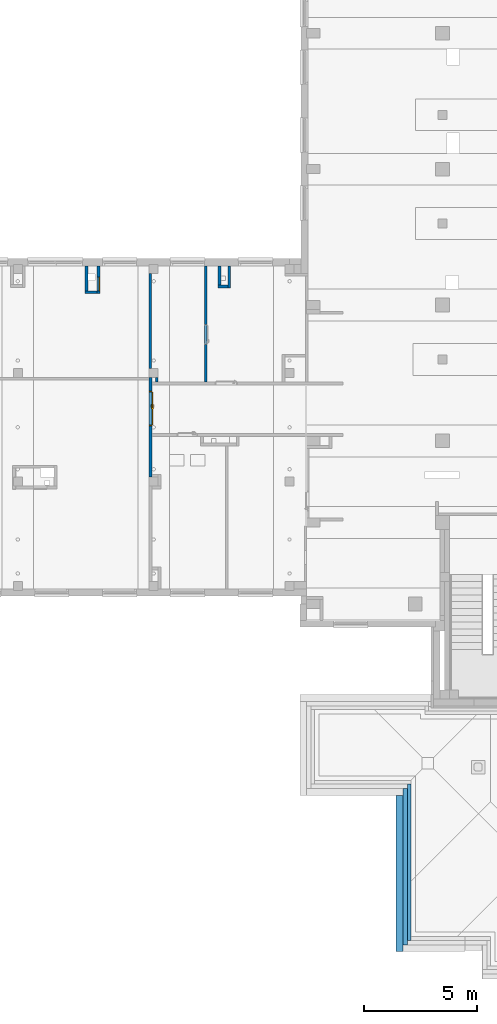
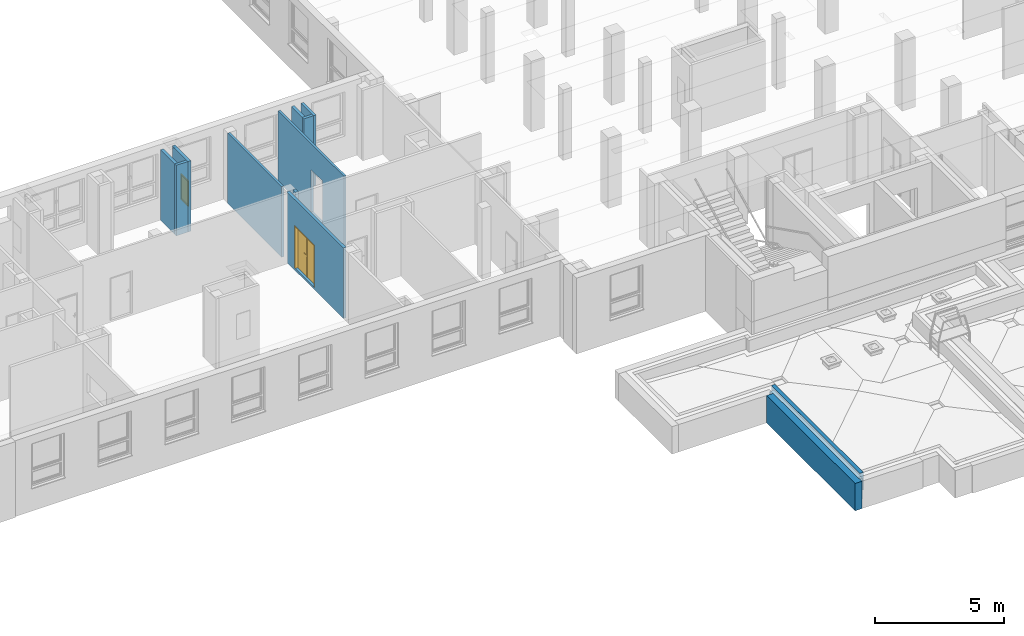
# One storey, part 18 of 50: 11 walls, 1 door, 1 window, 3 openings.
"""IFC4 building model written with IfcOpenShell, lengths in metres."""

from ifc_helpers import new_model, entity, si_unit, converted_unit, derived_unit, frame, frame_2d, origin, origin_with_axes, place, context, subcontext, project, spatial, polyline, rectangle, outline, extrude, clip, bounded_halfspace, closed_shell, open_shell, faceted_brep, surface_model, source, transform, mapped, material, layer, layer_set, layer_usage, type_object, element, fill, save


model = new_model("IFC4")

# Units and contexts
model_context = context("Model", 3, precision=1e-05, world=origin())
body_context = subcontext(model_context, "Body", "Model", "MODEL_VIEW")
ifc_project = project(units=[si_unit("LENGTHUNIT", "METRE"), si_unit("AREAUNIT", "SQUARE_METRE"), si_unit("VOLUMEUNIT", "CUBIC_METRE"), si_unit("MASSUNIT", "GRAM", prefix="KILO"), converted_unit("PLANEANGLEUNIT", "DEGREE", entity("IfcPlaneAngleMeasure", 0.0174532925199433), si_unit("PLANEANGLEUNIT", "RADIAN"), dimensions=[0, 0, 0, 0, 0, 0, 0]), derived_unit("THERMALTRANSMITTANCEUNIT", [(si_unit("POWERUNIT", "WATT"), 1), (si_unit("THERMODYNAMICTEMPERATUREUNIT", "KELVIN"), -1), (si_unit("LENGTHUNIT", "METRE"), -2)]), derived_unit("VOLUMETRICFLOWRATEUNIT", [(si_unit("LENGTHUNIT", "METRE"), 3), (converted_unit("TIMEUNIT", "hour", entity("IfcTimeMeasure", 3600.0), si_unit("TIMEUNIT", "SECOND"), dimensions=[0, 0, 1, 0, 0, 0, 0]), -1), (si_unit("LENGTHUNIT", "METRE"), -1)])], contexts=[model_context])

# Site, building, storey
site_placement = place(None, origin())
site = spatial("IfcSite", under=ifc_project, at=site_placement, Name="3. ASŘ", CompositionType="ELEMENT")
building_placement = place(site_placement, origin())
building = spatial("IfcBuilding", under=site, at=building_placement, Name="Pavilon C", CompositionType="ELEMENT")
storey_placement = place(building_placement, frame((0.0, 0.0, 3.6)))
storey = spatial("IfcBuildingStorey", under=building, at=storey_placement, Name="Půdorys 2.NP", CompositionType="ELEMENT", Elevation=3.6)

# Wall, opening, window
ifc_material_1 = material(Name="ZDIVO Z CDm")
ifc_layer_1 = layer(ifc_material_1, 0.125)
ifc_layer_set_1 = layer_set([ifc_layer_1])
ifc_layer_usage_1 = layer_usage(ifc_layer_set_1, "AXIS2", "POSITIVE", 0.0)
wall_1_placement = place(storey_placement, frame((15.5, 14.93, -0.1), z_axis=(0.0, 0.0, 1.0), x_axis=(0.0, -1.0, 0.0)))
wall_1 = element("IfcWall", 1, at=wall_1_placement, inside=storey, material=ifc_layer_usage_1, Name="ZDIVO Z CDm", context=body_context, shape_type="SweptSolid", body=[
    extrude(rectangle(XDim=1.225, YDim=0.125, at=frame_2d((0.612500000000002, 0.0625), x_axis=(1.0, 0.0))), origin_with_axes(), (0.0, 0.0, 1.0), 3.35),
])
opening_1_placement = place(wall_1_placement, frame((1.10000000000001, 0.125, 1.1), z_axis=(0.0, -1.0, 0.0), x_axis=(0.0, 0.0, 1.0)))
opening_1 = element("IfcOpeningElement", 2, at=opening_1_placement, cuts=wall_1, Name="Okenní otvor", ObjectType="Opening", context=body_context, shape_type="SweptSolid", body=[
    extrude(outline(polyline([(0.0, 0.6), (1.2, 0.6), (1.2, 0.0), (0.0, 0.0), (0.0, 0.6)])), origin_with_axes(), (0.0, 0.0, 1.0), 0.125),
])
shared_shape_1 = source(origin_with_axes(), body_context, "Body", "Brep", [
    faceted_brep([(0.0, 0.0600000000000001, 1.2), (0.0, 0.06, 4.91096680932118e-19), (0.02, 0.06, 4.91096680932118e-19), (0.02, 0.0600000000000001, 1.2), (0.0, 0.01, 6.61433067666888e-18), (0.0, 0.0100000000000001, 1.2), (0.02, 0.0100000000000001, 1.2), (0.02, 0.01, 6.61433067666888e-18)], [[[0, 1, 2, 3]], [[4, 5, 6, 7]], [[1, 0, 5, 4]], [[2, 1, 4, 7]], [[3, 2, 7, 6]], [[0, 3, 6, 5]]], orient=[[False], [False], [False], [False], [False], [False]]),
    faceted_brep([(0.58, 0.0600000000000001, 1.2), (0.58, 0.06, 4.91096680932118e-19), (0.6, 0.06, 4.91096680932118e-19), (0.6, 0.0600000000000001, 1.2), (0.58, 0.01, 6.61433067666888e-18), (0.58, 0.0100000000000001, 1.2), (0.6, 0.0100000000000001, 1.2), (0.6, 0.01, 6.61433067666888e-18)], [[[0, 1, 2, 3]], [[4, 5, 6, 7]], [[1, 0, 5, 4]], [[2, 1, 4, 7]], [[3, 2, 7, 6]], [[0, 3, 6, 5]]], orient=[[False], [False], [False], [False], [False], [False]]),
    faceted_brep([(0.02, 0.06, 0.02), (0.02, 0.06, 4.91096680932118e-19), (0.58, 0.06, 4.91096680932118e-19), (0.58, 0.06, 0.02), (0.02, 0.01, 6.61433067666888e-18), (0.02, 0.01, 0.02), (0.58, 0.01, 0.02), (0.58, 0.01, 6.61433067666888e-18)], [[[0, 1, 2, 3]], [[4, 5, 6, 7]], [[1, 0, 5, 4]], [[2, 1, 4, 7]], [[3, 2, 7, 6]], [[0, 3, 6, 5]]], orient=[[False], [False], [False], [False], [False], [False]]),
    faceted_brep([(0.02, 0.0600000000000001, 1.2), (0.02, 0.0600000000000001, 1.18), (0.58, 0.0600000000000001, 1.18), (0.58, 0.0600000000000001, 1.2), (0.02, 0.0100000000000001, 1.18), (0.02, 0.0100000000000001, 1.2), (0.58, 0.0100000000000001, 1.2), (0.58, 0.0100000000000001, 1.18)], [[[0, 1, 2, 3]], [[4, 5, 6, 7]], [[1, 0, 5, 4]], [[2, 1, 4, 7]], [[3, 2, 7, 6]], [[0, 3, 6, 5]]], orient=[[False], [False], [False], [False], [False], [False]]),
    faceted_brep([(0.02, 0.0100000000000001, 1.18), (0.02, 0.01, 0.02), (0.58, 0.01, 0.02), (0.58, 0.0100000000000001, 1.18), (0.02, 0.0, 0.02), (0.02, 1.4210854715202e-16, 1.18), (0.58, 1.4210854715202e-16, 1.18), (0.58, 0.0, 0.02)], [[[0, 1, 2, 3]], [[4, 5, 6, 7]], [[1, 0, 5, 4]], [[2, 1, 4, 7]], [[3, 2, 7, 6]], [[0, 3, 6, 5]]], orient=[[False], [False], [False], [False], [False], [False]]),
])
window_placement = place(opening_1_placement, frame((0.0, 0.599999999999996, -0.00999999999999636), z_axis=(1.0, 0.0, 0.0), x_axis=(0.0, -1.0, 1.22464679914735e-16)))
window = element("IfcWindow", 3, at=window_placement, inside=storey, Name="O01", OverallHeight=1.2, OverallWidth=0.6, PartitioningType="USERDEFINED", PredefinedType="WINDOW", context=body_context, shape_type="MappedRepresentation", body=[
    mapped(shared_shape_1, transform((0.0, 0.0, 0.0), x_axis=(1.0, 0.0, 0.0), y_axis=(0.0, -1.0, 0.0), z_axis=(0.0, 0.0, 1.0), scale=1.0)),
])
fill(opening_1, window)

# Walls
ifc_material_2 = material(Name="ZDIVO Z CDm")
ifc_layer_2 = layer(ifc_material_2, 0.125)
ifc_layer_set_2 = layer_set([ifc_layer_2])
ifc_layer_usage_2 = layer_usage(ifc_layer_set_2, "AXIS2", "POSITIVE", 0.0)
wall_2_placement = place(storey_placement, frame((15.5, 13.83, -0.1), z_axis=(0.0, 0.0, 1.0), x_axis=(-1.0, 0.0, 0.0)))
element("IfcWall", 4, at=wall_2_placement, inside=storey, material=ifc_layer_usage_2, Name="ZDIVO Z CDm", context=body_context, shape_type="SweptSolid", body=[
    extrude(rectangle(XDim=0.525, YDim=0.125, at=frame_2d((0.2625, 0.0625), x_axis=(1.0, 0.0))), origin_with_axes(), (0.0, 0.0, 1.0), 3.35),
])
ifc_material_3 = material(Name="ZDIVO Z CDm")
ifc_layer_3 = layer(ifc_material_3, 0.125)
ifc_layer_set_3 = layer_set([ifc_layer_3])
ifc_layer_usage_3 = layer_usage(ifc_layer_set_3, "AXIS2", "POSITIVE", 0.0)
wall_3_placement = place(storey_placement, frame((15.1, 13.83, -0.1), z_axis=(0.0, 0.0, 1.0), x_axis=(0.0, 1.0, 0.0)))
element("IfcWall", 5, at=wall_3_placement, inside=storey, material=ifc_layer_usage_3, Name="ZDIVO Z CDm", context=body_context, shape_type="SweptSolid", body=[
    extrude(rectangle(XDim=1.10000000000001, YDim=0.125, at=frame_2d((0.550000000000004, 0.0625), x_axis=(1.0, 0.0))), origin_with_axes(), (0.0, 0.0, 1.0), 3.35),
])
ifc_material_4 = material(Name="ZDIVO Z CDm")
ifc_layer_4 = layer(ifc_material_4, 0.125)
ifc_layer_set_4 = layer_set([ifc_layer_4])
ifc_layer_usage_4 = layer_usage(ifc_layer_set_4, "AXIS2", "POSITIVE", 0.0)
wall_4_placement = place(storey_placement, frame((21.275, 14.93, -0.1), z_axis=(0.0, 0.0, 1.0), x_axis=(0.0, -1.0, 0.0)))
element("IfcWall", 6, at=wall_4_placement, inside=storey, material=ifc_layer_usage_4, Name="ZDIVO Z CDm", context=body_context, shape_type="SweptSolid", body=[
    extrude(rectangle(XDim=0.975, YDim=0.125, at=frame_2d((0.4875, 0.0625), x_axis=(1.0, 0.0))), origin_with_axes(), (0.0, 0.0, 1.0), 3.35),
])
ifc_material_5 = material(Name="ZDIVO Z CDm")
ifc_layer_5 = layer(ifc_material_5, 0.125)
ifc_layer_set_5 = layer_set([ifc_layer_5])
ifc_layer_usage_5 = layer_usage(ifc_layer_set_5, "AXIS2", "POSITIVE", 0.0)
wall_5_placement = place(storey_placement, frame((21.275, 14.08, -0.1), z_axis=(0.0, 0.0, 1.0), x_axis=(-1.0, 0.0, 0.0)))
element("IfcWall", 7, at=wall_5_placement, inside=storey, material=ifc_layer_usage_5, Name="ZDIVO Z CDm", context=body_context, shape_type="SweptSolid", body=[
    extrude(rectangle(XDim=0.425, YDim=0.125, at=frame_2d((0.2125, 0.0625), x_axis=(1.0, 0.0))), origin_with_axes(), (0.0, 0.0, 1.0), 3.35),
])
ifc_material_6 = material(Name="ZDIVO Z CDm")
ifc_layer_6 = layer(ifc_material_6, 0.125)
ifc_layer_set_6 = layer_set([ifc_layer_6])
ifc_layer_usage_6 = layer_usage(ifc_layer_set_6, "AXIS2", "POSITIVE", 0.0)
wall_6_placement = place(storey_placement, frame((20.975, 14.08, -0.1), z_axis=(0.0, 0.0, 1.0), x_axis=(0.0, 1.0, 0.0)))
element("IfcWall", 8, at=wall_6_placement, inside=storey, material=ifc_layer_usage_6, Name="ZDIVO Z CDm", context=body_context, shape_type="SweptSolid", body=[
    extrude(rectangle(XDim=0.850000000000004, YDim=0.125, at=frame_2d((0.425000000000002, 0.0625), x_axis=(1.0, 0.0))), origin_with_axes(), (0.0, 0.0, 1.0), 3.35),
])
ifc_material_7 = material(Name="PÓROBETONOVÉ ZDIVO")
ifc_layer_7 = layer(ifc_material_7, 0.1)
ifc_layer_set_7 = layer_set([ifc_layer_7])
ifc_layer_usage_7 = layer_usage(ifc_layer_set_7, "AXIS2", "POSITIVE", 0.0)
wall_7_placement = place(storey_placement, frame((17.8, 14.6, -0.1), z_axis=(0.0, 0.0, 1.0), x_axis=(0.0, -1.0, 0.0)))
element("IfcWall", 9, at=wall_7_placement, inside=storey, material=ifc_layer_usage_7, Name="PÓROBETONOVÉ ZDIVO", context=body_context, shape_type="SweptSolid", body=[
    extrude(rectangle(XDim=4.2, YDim=0.1, at=frame_2d((2.1, 0.05), x_axis=(1.0, 0.0))), origin_with_axes(), (0.0, 0.0, 1.0), 3.35),
])

# Wall, opening, door
ifc_material_8 = material(Name="ZDIVO Z CDm")
ifc_layer_8 = layer(ifc_material_8, 0.125)
ifc_layer_set_8 = layer_set([ifc_layer_8])
ifc_layer_usage_8 = layer_usage(ifc_layer_set_8, "AXIS2", "POSITIVE", 0.0)
wall_8_placement = place(storey_placement, frame((17.8, 10.0, -0.1), z_axis=(0.0, 0.0, 1.0), x_axis=(0.0, -1.0, 0.0)))
wall_8 = element("IfcWall", 10, at=wall_8_placement, inside=storey, material=ifc_layer_usage_8, Name="ZDIVO Z CDm", context=body_context, shape_type="SweptSolid", body=[
    extrude(rectangle(XDim=4.4, YDim=0.125, at=frame_2d((2.2, 0.0625), x_axis=(1.0, 0.0))), origin_with_axes(), (0.0, 0.0, 1.0), 3.35),
])
opening_2_placement = place(wall_8_placement, frame((2.15, 0.125, 0.1), z_axis=(0.0, -1.0, 0.0), x_axis=(0.0, 0.0, 1.0)))
opening_2 = element("IfcOpeningElement", 11, at=opening_2_placement, cuts=wall_8, Name="Dveřní otvor", ObjectType="Opening", context=body_context, shape_type="SweptSolid", body=[
    extrude(outline(polyline([(0.0, 1.55), (2.02, 1.55), (2.02, 0.0), (0.0, 0.0), (0.0, 1.55)])), origin_with_axes(), (0.0, 0.0, 1.0), 0.125),
])
door_type = type_object("IfcDoorType", Name="D501", OperationType="NOTDEFINED", ParameterTakesPrecedence=False, PredefinedType="DOOR")
shared_shape_2 = source(origin_with_axes(), body_context, "Body", "SurfaceModel", [
    surface_model("IfcShellBasedSurfaceModel", [(0.0, 0.125, 2.02), (0.0, 0.125, -7.65404249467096e-18), (0.05, 0.125, -7.65404249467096e-18), (0.05, 0.125, 2.02), (0.0, 0.0, 7.65404249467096e-18), (0.0, 2.41584530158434e-16, 2.02), (0.05, 2.41584530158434e-16, 2.02), (0.05, 0.0, 7.65404249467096e-18)], [closed_shell([[[0, 1, 2, 3]], [[4, 5, 6, 7]], [[1, 0, 5, 4]], [[2, 1, 4, 7]], [[3, 2, 7, 6]], [[0, 3, 6, 5]]], orient=[[False], [False], [False], [False], [False], [False]])]),
    surface_model("IfcShellBasedSurfaceModel", [(1.5, 0.125, 2.02), (1.5, 0.125, -7.65404249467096e-18), (1.55, 0.125, -7.65404249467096e-18), (1.55, 0.125, 2.02), (1.5, 0.0, 7.65404249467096e-18), (1.5, 2.41584530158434e-16, 2.02), (1.55, 2.41584530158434e-16, 2.02), (1.55, 0.0, 7.65404249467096e-18)], [closed_shell([[[0, 1, 2, 3]], [[4, 5, 6, 7]], [[1, 0, 5, 4]], [[2, 1, 4, 7]], [[3, 2, 7, 6]], [[0, 3, 6, 5]]], orient=[[False], [False], [False], [False], [False], [False]])]),
    surface_model("IfcShellBasedSurfaceModel", [(0.05, 0.125, 2.02), (0.05, 0.125, 1.97), (1.5, 0.125, 1.97), (1.5, 0.125, 2.02), (0.05, 2.41584530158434e-16, 1.97), (0.05, 2.41584530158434e-16, 2.02), (1.5, 2.41584530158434e-16, 2.02), (1.5, 2.41584530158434e-16, 1.97)], [closed_shell([[[0, 1, 2, 3]], [[4, 5, 6, 7]], [[1, 0, 5, 4]], [[2, 1, 4, 7]], [[3, 2, 7, 6]], [[0, 3, 6, 5]]], orient=[[False], [False], [False], [False], [False], [False]])]),
    surface_model("IfcShellBasedSurfaceModel", [(0.05, 0.165, 1.97), (0.05, 0.165, -1.25526296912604e-17), (0.7745, 0.165, -1.25526296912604e-17), (0.7745, 0.165, 1.97), (0.05, 0.125, -7.65404249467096e-18), (0.05, 0.125, 1.97), (0.7745, 0.125, 1.97), (0.7745, 0.125, -7.65404249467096e-18)], [closed_shell([[[0, 1, 2, 3]], [[4, 5, 6, 7]], [[1, 0, 5, 4]], [[2, 1, 4, 7]], [[3, 2, 7, 6]], [[0, 3, 6, 5]]], orient=[[False], [False], [False], [False], [False], [False]])]),
    surface_model("IfcShellBasedSurfaceModel", [(0.7545, 0.165, 1.97), (0.7945, 0.165, 1.97), (0.7945, 0.165, -1.25526296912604e-17), (0.7545, 0.165, -1.25526296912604e-17), (0.7545, 0.185, -1.50019232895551e-17), (0.7945, 0.185, -1.50019232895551e-17), (0.7945, 0.185, 1.97), (0.7545, 0.185, 1.97)], [closed_shell([[[0, 1, 2, 3]], [[4, 5, 6, 7]], [[3, 4, 7, 0]], [[2, 5, 4, 3]], [[1, 6, 5, 2]], [[0, 7, 6, 1]]], orient=[[False], [False], [False], [False], [False], [False]])]),
    surface_model("IfcShellBasedSurfaceModel", [(0.733315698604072, 0.125, 0.93625), (0.737, 0.125, 0.95), (0.733315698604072, 0.125, 0.96375), (0.72325, 0.125, 0.973815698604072), (0.7095, 0.125, 0.9775), (0.69575, 0.125, 0.973815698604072), (0.685684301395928, 0.125, 0.96375), (0.682, 0.125, 0.95), (0.685684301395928, 0.125, 0.93625), (0.69575, 0.125, 0.926184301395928), (0.7095, 0.125, 0.9225), (0.72325, 0.125, 0.926184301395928), (0.737, 0.1125, 0.95), (0.733315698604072, 0.1125, 0.93625), (0.72325, 0.1125, 0.926184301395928), (0.7095, 0.1125, 0.9225), (0.69575, 0.1125, 0.926184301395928), (0.685684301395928, 0.1125, 0.93625), (0.682, 0.1125, 0.95), (0.685684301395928, 0.1125, 0.96375), (0.69575, 0.1125, 0.973815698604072), (0.7095, 0.1125, 0.9775), (0.72325, 0.1125, 0.973815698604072), (0.733315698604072, 0.1125, 0.96375)], [closed_shell([[[0, 1, 2, 3, 4, 5, 6, 7, 8, 9, 10, 11]], [[12, 13, 14, 15, 16, 17, 18, 19, 20, 21, 22, 23]], [[1, 0, 13, 12]], [[2, 1, 12, 23]], [[3, 2, 23, 22]], [[4, 3, 22, 21]], [[5, 4, 21, 20]], [[6, 5, 20, 19]], [[7, 6, 19, 18]], [[8, 7, 18, 17]], [[9, 8, 17, 16]], [[10, 9, 16, 15]], [[11, 10, 15, 14]], [[0, 11, 14, 13]]], orient=[[False], [False], [False], [False], [False], [False], [False], [False], [False], [False], [False], [False], [False], [False]])]),
    surface_model("IfcShellBasedSurfaceModel", [(0.733315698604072, 0.125, 1.03625), (0.737, 0.125, 1.05), (0.733315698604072, 0.125, 1.06375), (0.72325, 0.125, 1.07381569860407), (0.7095, 0.125, 1.0775), (0.69575, 0.125, 1.07381569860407), (0.685684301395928, 0.125, 1.06375), (0.682, 0.125, 1.05), (0.685684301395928, 0.125, 1.03625), (0.69575, 0.125, 1.02618430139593), (0.7095, 0.125, 1.0225), (0.72325, 0.125, 1.02618430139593), (0.737, 0.1125, 1.05), (0.733315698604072, 0.1125, 1.03625), (0.72325, 0.1125, 1.02618430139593), (0.7095, 0.1125, 1.0225), (0.69575, 0.1125, 1.02618430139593), (0.685684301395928, 0.1125, 1.03625), (0.682, 0.1125, 1.05), (0.685684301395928, 0.1125, 1.06375), (0.69575, 0.1125, 1.07381569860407), (0.7095, 0.1125, 1.0775), (0.72325, 0.1125, 1.07381569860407), (0.733315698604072, 0.1125, 1.06375)], [closed_shell([[[0, 1, 2, 3, 4, 5, 6, 7, 8, 9, 10, 11]], [[12, 13, 14, 15, 16, 17, 18, 19, 20, 21, 22, 23]], [[1, 0, 13, 12]], [[2, 1, 12, 23]], [[3, 2, 23, 22]], [[4, 3, 22, 21]], [[5, 4, 21, 20]], [[6, 5, 20, 19]], [[7, 6, 19, 18]], [[8, 7, 18, 17]], [[9, 8, 17, 16]], [[10, 9, 16, 15]], [[11, 10, 15, 14]], [[0, 11, 14, 13]]], orient=[[False], [False], [False], [False], [False], [False], [False], [False], [False], [False], [False], [False], [False], [False]])]),
    surface_model("IfcShellBasedSurfaceModel", [(0.7095, 0.125, 1.06), (0.7045, 0.125, 1.05866025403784), (0.700839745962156, 0.125, 1.055), (0.6995, 0.125, 1.05), (0.700839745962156, 0.125, 1.045), (0.7045, 0.125, 1.04133974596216), (0.7095, 0.125, 1.04), (0.7145, 0.125, 1.04133974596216), (0.718160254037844, 0.125, 1.045), (0.7195, 0.125, 1.05), (0.718160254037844, 0.125, 1.055), (0.7145, 0.125, 1.05866025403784), (0.7145, 0.0800000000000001, 1.05866025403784), (0.7095, 0.0850000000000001, 1.06), (0.718160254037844, 0.0763397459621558, 1.055), (0.7195, 0.0750000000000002, 1.05), (0.718160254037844, 0.0763397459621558, 1.045), (0.7145, 0.0800000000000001, 1.04133974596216), (0.7095, 0.0850000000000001, 1.04), (0.7045, 0.0900000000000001, 1.04133974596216), (0.700839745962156, 0.0936602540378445, 1.045), (0.6995, 0.0950000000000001, 1.05), (0.700839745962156, 0.0936602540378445, 1.055), (0.7045, 0.0900000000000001, 1.05866025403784), (0.5945, 0.0800000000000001, 1.05866025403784), (0.5945, 0.0850000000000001, 1.06), (0.5945, 0.0763397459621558, 1.055), (0.5945, 0.0750000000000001, 1.05), (0.5945, 0.0763397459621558, 1.045), (0.5945, 0.0800000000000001, 1.04133974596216), (0.5945, 0.0850000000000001, 1.04), (0.5945, 0.0900000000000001, 1.04133974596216), (0.5945, 0.0936602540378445, 1.045), (0.5945, 0.0950000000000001, 1.05), (0.5945, 0.0936602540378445, 1.055), (0.5945, 0.0900000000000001, 1.05866025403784)], [open_shell([[[0, 1, 2, 3, 4, 5, 6, 7, 8, 9, 10, 11]], [[0, 11, 12, 13]], [[11, 10, 14, 12]], [[10, 9, 15, 14]], [[9, 8, 16, 15]], [[8, 7, 17, 16]], [[7, 6, 18, 17]], [[6, 5, 19, 18]], [[5, 4, 20, 19]], [[4, 3, 21, 20]], [[3, 2, 22, 21]], [[2, 1, 23, 22]], [[1, 0, 13, 23]], [[13, 12, 24, 25]], [[12, 14, 26, 24]], [[14, 15, 27, 26]], [[15, 16, 28, 27]], [[16, 17, 29, 28]], [[17, 18, 30, 29]], [[18, 19, 31, 30]], [[19, 20, 32, 31]], [[20, 21, 33, 32]], [[21, 22, 34, 33]], [[22, 23, 35, 34]], [[23, 13, 25, 35]]], orient=[[False], [False], [False], [False], [False], [False], [False], [False], [False], [False], [False], [False], [False], [False], [False], [False], [False], [False], [False], [False], [False], [False], [False], [False], [False]])]),
    surface_model("IfcShellBasedSurfaceModel", [(0.733315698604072, 0.165, 0.93625), (0.72325, 0.165, 0.926184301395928), (0.7095, 0.165, 0.9225), (0.69575, 0.165, 0.926184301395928), (0.685684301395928, 0.165, 0.93625), (0.682, 0.165, 0.95), (0.685684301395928, 0.165, 0.96375), (0.69575, 0.165, 0.973815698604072), (0.7095, 0.165, 0.9775), (0.72325, 0.165, 0.973815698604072), (0.733315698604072, 0.165, 0.96375), (0.737, 0.165, 0.95), (0.737, 0.1775, 0.95), (0.733315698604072, 0.1775, 0.96375), (0.72325, 0.1775, 0.973815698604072), (0.7095, 0.1775, 0.9775), (0.69575, 0.1775, 0.973815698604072), (0.685684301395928, 0.1775, 0.96375), (0.682, 0.1775, 0.95), (0.685684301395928, 0.1775, 0.93625), (0.69575, 0.1775, 0.926184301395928), (0.7095, 0.1775, 0.9225), (0.72325, 0.1775, 0.926184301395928), (0.733315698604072, 0.1775, 0.93625)], [closed_shell([[[0, 1, 2, 3, 4, 5, 6, 7, 8, 9, 10, 11]], [[12, 13, 14, 15, 16, 17, 18, 19, 20, 21, 22, 23]], [[11, 12, 23, 0]], [[10, 13, 12, 11]], [[9, 14, 13, 10]], [[8, 15, 14, 9]], [[7, 16, 15, 8]], [[6, 17, 16, 7]], [[5, 18, 17, 6]], [[4, 19, 18, 5]], [[3, 20, 19, 4]], [[2, 21, 20, 3]], [[1, 22, 21, 2]], [[0, 23, 22, 1]]], orient=[[False], [False], [False], [False], [False], [False], [False], [False], [False], [False], [False], [False], [False], [False]])]),
    surface_model("IfcShellBasedSurfaceModel", [(0.733315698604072, 0.165, 1.03625), (0.72325, 0.165, 1.02618430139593), (0.7095, 0.165, 1.0225), (0.69575, 0.165, 1.02618430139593), (0.685684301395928, 0.165, 1.03625), (0.682, 0.165, 1.05), (0.685684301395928, 0.165, 1.06375), (0.69575, 0.165, 1.07381569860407), (0.7095, 0.165, 1.0775), (0.72325, 0.165, 1.07381569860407), (0.733315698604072, 0.165, 1.06375), (0.737, 0.165, 1.05), (0.737, 0.1775, 1.05), (0.733315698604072, 0.1775, 1.06375), (0.72325, 0.1775, 1.07381569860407), (0.7095, 0.1775, 1.0775), (0.69575, 0.1775, 1.07381569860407), (0.685684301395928, 0.1775, 1.06375), (0.682, 0.1775, 1.05), (0.685684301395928, 0.1775, 1.03625), (0.69575, 0.1775, 1.02618430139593), (0.7095, 0.1775, 1.0225), (0.72325, 0.1775, 1.02618430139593), (0.733315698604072, 0.1775, 1.03625)], [closed_shell([[[0, 1, 2, 3, 4, 5, 6, 7, 8, 9, 10, 11]], [[12, 13, 14, 15, 16, 17, 18, 19, 20, 21, 22, 23]], [[11, 12, 23, 0]], [[10, 13, 12, 11]], [[9, 14, 13, 10]], [[8, 15, 14, 9]], [[7, 16, 15, 8]], [[6, 17, 16, 7]], [[5, 18, 17, 6]], [[4, 19, 18, 5]], [[3, 20, 19, 4]], [[2, 21, 20, 3]], [[1, 22, 21, 2]], [[0, 23, 22, 1]]], orient=[[False], [False], [False], [False], [False], [False], [False], [False], [False], [False], [False], [False], [False], [False]])]),
    surface_model("IfcShellBasedSurfaceModel", [(0.7095, 0.165, 1.06), (0.7145, 0.165, 1.05866025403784), (0.718160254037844, 0.165, 1.055), (0.7195, 0.165, 1.05), (0.718160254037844, 0.165, 1.045), (0.7145, 0.165, 1.04133974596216), (0.7095, 0.165, 1.04), (0.7045, 0.165, 1.04133974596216), (0.700839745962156, 0.165, 1.045), (0.6995, 0.165, 1.05), (0.700839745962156, 0.165, 1.055), (0.7045, 0.165, 1.05866025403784), (0.7095, 0.205, 1.06), (0.7145, 0.21, 1.05866025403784), (0.718160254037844, 0.213660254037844, 1.055), (0.7195, 0.215, 1.05), (0.718160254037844, 0.213660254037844, 1.045), (0.7145, 0.21, 1.04133974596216), (0.7095, 0.205, 1.04), (0.7045, 0.2, 1.04133974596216), (0.700839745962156, 0.196339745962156, 1.045), (0.6995, 0.195, 1.05), (0.700839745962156, 0.196339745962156, 1.055), (0.7045, 0.2, 1.05866025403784), (0.5945, 0.205, 1.06), (0.5945, 0.21, 1.05866025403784), (0.5945, 0.213660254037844, 1.055), (0.5945, 0.215, 1.05), (0.5945, 0.213660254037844, 1.045), (0.5945, 0.21, 1.04133974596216), (0.5945, 0.205, 1.04), (0.5945, 0.2, 1.04133974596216), (0.5945, 0.196339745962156, 1.045), (0.5945, 0.195, 1.05), (0.5945, 0.196339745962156, 1.055), (0.5945, 0.2, 1.05866025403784)], [open_shell([[[0, 1, 2, 3, 4, 5, 6, 7, 8, 9, 10, 11]], [[0, 12, 13, 1]], [[1, 13, 14, 2]], [[2, 14, 15, 3]], [[3, 15, 16, 4]], [[4, 16, 17, 5]], [[5, 17, 18, 6]], [[6, 18, 19, 7]], [[7, 19, 20, 8]], [[8, 20, 21, 9]], [[9, 21, 22, 10]], [[10, 22, 23, 11]], [[11, 23, 12, 0]], [[12, 24, 25, 13]], [[13, 25, 26, 14]], [[14, 26, 27, 15]], [[15, 27, 28, 16]], [[16, 28, 29, 17]], [[17, 29, 30, 18]], [[18, 30, 31, 19]], [[19, 31, 32, 20]], [[20, 32, 33, 21]], [[21, 33, 34, 22]], [[22, 34, 35, 23]], [[23, 35, 24, 12]]], orient=[[False], [False], [False], [False], [False], [False], [False], [False], [False], [False], [False], [False], [False], [False], [False], [False], [False], [False], [False], [False], [False], [False], [False], [False], [False]])]),
    surface_model("IfcShellBasedSurfaceModel", [(0.7755, 0.165, 1.97), (0.7755, 0.165, -1.25526296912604e-17), (1.5, 0.165, -1.25526296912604e-17), (1.5, 0.165, 1.97), (0.7755, 0.125, -7.65404249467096e-18), (0.7755, 0.125, 1.97), (1.5, 0.125, 1.97), (1.5, 0.125, -7.65404249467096e-18)], [closed_shell([[[0, 1, 2, 3]], [[4, 5, 6, 7]], [[1, 0, 5, 4]], [[2, 1, 4, 7]], [[3, 2, 7, 6]], [[0, 3, 6, 5]]], orient=[[False], [False], [False], [False], [False], [False]])]),
    surface_model("IfcShellBasedSurfaceModel", [(0.7555, 0.125, 1.97), (0.7555, 0.125, -7.65404249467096e-18), (0.7955, 0.125, -7.65404249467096e-18), (0.7955, 0.125, 1.97), (0.7555, 0.105, -5.20474889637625e-18), (0.7555, 0.105, 1.97), (0.7955, 0.105, 1.97), (0.7955, 0.105, -5.20474889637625e-18)], [closed_shell([[[0, 1, 2, 3]], [[4, 5, 6, 7]], [[1, 0, 5, 4]], [[2, 1, 4, 7]], [[3, 2, 7, 6]], [[0, 3, 6, 5]]], orient=[[False], [False], [False], [False], [False], [False]])]),
])
door_placement = place(opening_2_placement, frame((0.0, 1.55, 0.125000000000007), z_axis=(1.0, 0.0, 0.0), x_axis=(0.0, -0.999999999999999, 2.4492935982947e-16)))
door = element("IfcDoor", 12, at=door_placement, inside=storey, type_object=door_type, Name="D501", OverallHeight=2.02, OverallWidth=1.55, context=body_context, shape_type="MappedRepresentation", body=[
    mapped(shared_shape_2, transform((0.0, 0.0, 0.0), x_axis=(1.0, 0.0, 0.0), y_axis=(0.0, 1.0, 0.0), z_axis=(0.0, 0.0, 1.0), scale=0.999999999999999)),
])
fill(opening_2, door)

# Wall
ifc_material_9 = material(Name="ZDIVO Z CDm")
ifc_layer_9 = layer(ifc_material_9, 0.125)
ifc_layer_set_9 = layer_set([ifc_layer_9])
ifc_layer_usage_9 = layer_usage(ifc_layer_set_9, "AXIS2", "POSITIVE", 0.0)
wall_9_placement = place(storey_placement, frame((18.2, 9.80000000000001, -0.1), z_axis=(0.0, 0.0, 1.0), x_axis=(0.0, 1.0, 0.0)))
element("IfcWall", 13, at=wall_9_placement, inside=storey, material=ifc_layer_usage_9, Name="ZDIVO Z CDm", context=body_context, shape_type="SweptSolid", body=[
    extrude(rectangle(XDim=0.199999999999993, YDim=0.125, at=frame_2d((0.0999999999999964, 0.0625), x_axis=(1.0, 0.0))), origin_with_axes(), (0.0, 0.0, 1.0), 3.35),
])

# Wall, opening
ifc_material_10 = material(Name="PÓROBETONOVÉ ZDIVO")
ifc_layer_10 = layer(ifc_material_10, 0.1)
ifc_layer_set_10 = layer_set([ifc_layer_10])
ifc_layer_usage_10 = layer_usage(ifc_layer_set_10, "AXIS2", "POSITIVE", 0.0)
wall_10_placement = place(storey_placement, frame((20.25, 14.93, -0.1), z_axis=(0.0, 0.0, 1.0), x_axis=(0.0, -1.0, 0.0)))
wall_10 = element("IfcWall", 14, at=wall_10_placement, inside=storey, material=ifc_layer_usage_10, Name="PÓROBETONOVÉ ZDIVO", context=body_context, shape_type="SweptSolid", body=[
    extrude(rectangle(XDim=5.13, YDim=0.1, at=frame_2d((2.565, 0.05), x_axis=(1.0, 0.0))), origin_with_axes(), (0.0, 0.0, 1.0), 3.35),
])
opening_3_placement = place(wall_10_placement, frame((3.48, 0.1, 0.1), z_axis=(0.0, -1.0, 0.0), x_axis=(0.0, 0.0, 1.0)))
element("IfcOpeningElement", 15, at=opening_3_placement, cuts=wall_10, Name="Dveřní otvor", ObjectType="Opening", context=body_context, shape_type="SweptSolid", body=[
    extrude(outline(polyline([(0.0, 0.9), (2.02, 0.9), (2.02, 0.0), (0.0, 0.0), (0.0, 0.9)])), origin_with_axes(), (0.0, 0.0, 1.0), 0.1),
])

# Wall
ifc_material_11 = material(Name="MINERÁLNÍ VATA")
ifc_layer_11 = layer(ifc_material_11, 0.3)
ifc_material_12 = material(Name="ZELEZOBETONOVÁ KCE")
ifc_layer_12 = layer(ifc_material_12, 0.2)
ifc_material_13 = material(Name="MINERÁLNÍ VATA")
ifc_layer_13 = layer(ifc_material_13, 0.16)
ifc_layer_set_11 = layer_set([ifc_layer_11, ifc_layer_12, ifc_layer_13])
ifc_layer_usage_11 = layer_usage(ifc_layer_set_11, "AXIS2", "POSITIVE", -0.3)
wall_11_placement = place(storey_placement, frame((28.7, -8.45000000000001, -0.35), z_axis=(0.0, 0.0, 1.0), x_axis=(0.0, -1.0, 0.0)))
element("IfcWall", 16, at=wall_11_placement, inside=storey, material=ifc_layer_usage_11, Name="MINERÁLNÍ VATA", context=body_context, shape_type="Clipping", body=[
    clip(clip(clip(extrude(outline(polyline([(-6.895, 0.0), (0.0, 0.0), (0.0, 0.3), (-0.3, 0.3), (-0.3, 0.5), (-0.5, 0.5), (-0.5, 0.66), (-7.395, 0.66), (-7.395, 0.5), (-7.195, 0.5), (-7.195, 0.3), (-6.895, 0.3), (-6.895, 0.0)])), frame((6.895, 0.0, 0.0), z_axis=(0.0, 0.0, 1.0), x_axis=(1.0, 0.0, 0.0)), (0.0, 0.0, 1.0), 1.3), bounded_halfspace(frame((2.518, 0.38, 0.2), z_axis=(0.0, 0.0, 1.0), x_axis=(0.0, -1.0, 0.0)), True, origin_with_axes(), polyline([(-0.299999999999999, 0.499999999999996), (-0.299999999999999, 0.299999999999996), (0.0, 0.299999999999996), (6.595, 0.299999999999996), (6.595, 0.499999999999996), (-0.299999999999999, 0.499999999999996)]))), bounded_halfspace(frame((2.298, 0.564, 0.460000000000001), z_axis=(0.0, 0.0, 1.0), x_axis=(0.0, -1.0, 0.0)), True, origin_with_axes(), polyline([(-0.499999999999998, 0.66), (-0.499999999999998, 0.5), (-0.299999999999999, 0.499999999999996), (6.395, 0.5), (6.395, 0.66), (-0.499999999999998, 0.66)]))), bounded_halfspace(frame((3.16416666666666, 0.399999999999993, 1.2), z_axis=(0.0, 0.0, -1.0), x_axis=(1.0, 0.0, 0.0)), True, origin_with_axes(), polyline([(0.0, 0.299999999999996), (6.595, 0.299999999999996), (6.595, 0.499999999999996), (6.395, 0.499999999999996), (-0.299999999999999, 0.499999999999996), (-0.299999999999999, 0.299999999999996), (0.0, 0.299999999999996)]))),
])

save(model, "model.ifc")
